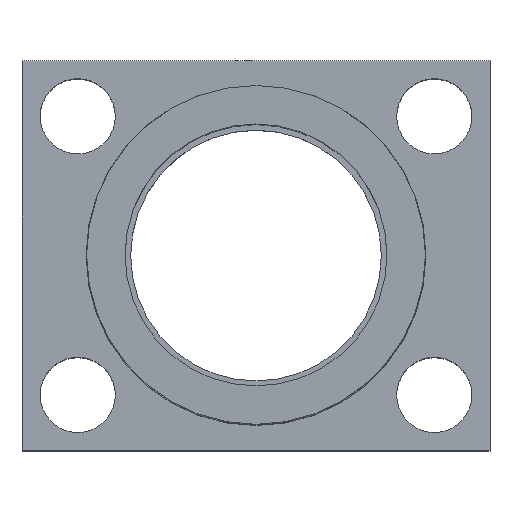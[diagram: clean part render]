
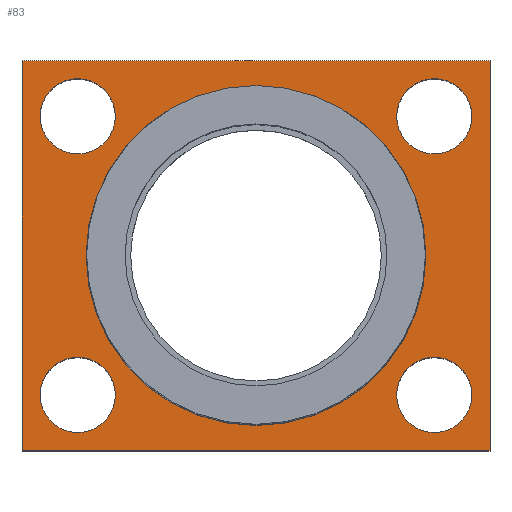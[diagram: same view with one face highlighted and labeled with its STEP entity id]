
A CAD part, top view. The second image highlights one B-rep face of the part: STEP entity #83.
In plain terms, the highlighted planar face has unit normal (0, 0, 1).
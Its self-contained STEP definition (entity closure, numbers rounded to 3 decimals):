
#4 = CIRCLE ( 'NONE', #1958, 6.75 ) ;
#51 = LINE ( 'NONE', #91, #1000 ) ;
#56 = EDGE_CURVE ( 'NONE', #1602, #290, #51, .T. ) ;
#67 = LINE ( 'NONE', #1934, #105 ) ;
#70 = EDGE_CURVE ( 'NONE', #1857, #994, #1329, .T. ) ;
#83 = ADVANCED_FACE ( 'NONE', ( #1159, #217, #1782, #1490, #812, #1295 ), #1332, .T. ) ;
#91 = CARTESIAN_POINT ( 'NONE',  ( 42., 35., 6. ) ) ;
#105 = VECTOR ( 'NONE', #1789, 1000. ) ;
#106 = CARTESIAN_POINT ( 'NONE',  ( -32., -25., 6. ) ) ;
#116 = VERTEX_POINT ( 'NONE', #1685 ) ;
#121 = EDGE_CURVE ( 'NONE', #994, #1857, #1787, .T. ) ;
#135 = DIRECTION ( 'NONE',  ( 1., 0., 0. ) ) ;
#137 = DIRECTION ( 'NONE',  ( 1., 0., 0. ) ) ;
#140 = EDGE_LOOP ( 'NONE', ( #935, #439, #693, #165 ) ) ;
#144 = VECTOR ( 'NONE', #1543, 1000. ) ;
#145 = ORIENTED_EDGE ( 'NONE', *, *, #121, .F. ) ;
#151 = CARTESIAN_POINT ( 'NONE',  ( 0., 0., 6. ) ) ;
#159 = CARTESIAN_POINT ( 'NONE',  ( -30.5, 0., 6. ) ) ;
#165 = ORIENTED_EDGE ( 'NONE', *, *, #1401, .T. ) ;
#200 = CARTESIAN_POINT ( 'NONE',  ( 30.5, 0., 6. ) ) ;
#205 = VERTEX_POINT ( 'NONE', #1817 ) ;
#211 = EDGE_CURVE ( 'NONE', #278, #389, #1046, .T. ) ;
#217 = FACE_BOUND ( 'NONE', #1929, .T. ) ;
#227 = ORIENTED_EDGE ( 'NONE', *, *, #485, .F. ) ;
#243 = CIRCLE ( 'NONE', #528, 6.75 ) ;
#255 = DIRECTION ( 'NONE',  ( 0., 0., 1. ) ) ;
#270 = CIRCLE ( 'NONE', #984, 6.75 ) ;
#278 = VERTEX_POINT ( 'NONE', #1709 ) ;
#290 = VERTEX_POINT ( 'NONE', #1435 ) ;
#291 = LINE ( 'NONE', #904, #144 ) ;
#293 = ORIENTED_EDGE ( 'NONE', *, *, #1013, .F. ) ;
#311 = VERTEX_POINT ( 'NONE', #340 ) ;
#340 = CARTESIAN_POINT ( 'NONE',  ( -42., -35., 6. ) ) ;
#352 = DIRECTION ( 'NONE',  ( 0., 0., 1. ) ) ;
#383 = EDGE_CURVE ( 'NONE', #1366, #116, #4, .T. ) ;
#387 = DIRECTION ( 'NONE',  ( -1., 0., 0. ) ) ;
#389 = VERTEX_POINT ( 'NONE', #609 ) ;
#420 = CARTESIAN_POINT ( 'NONE',  ( 0., 0., 6. ) ) ;
#439 = ORIENTED_EDGE ( 'NONE', *, *, #1102, .T. ) ;
#444 = DIRECTION ( 'NONE',  ( 1., 0., 0. ) ) ;
#485 = EDGE_CURVE ( 'NONE', #116, #1366, #783, .T. ) ;
#506 = VERTEX_POINT ( 'NONE', #200 ) ;
#526 = CIRCLE ( 'NONE', #1182, 30.5 ) ;
#528 = AXIS2_PLACEMENT_3D ( 'NONE', #1448, #352, #970 ) ;
#546 = DIRECTION ( 'NONE',  ( 1., 0., 0. ) ) ;
#555 = AXIS2_PLACEMENT_3D ( 'NONE', #1030, #255, #706 ) ;
#586 = DIRECTION ( 'NONE',  ( 0., 0., 1. ) ) ;
#591 = DIRECTION ( 'NONE',  ( 1., 0., 0. ) ) ;
#609 = CARTESIAN_POINT ( 'NONE',  ( 25.25, -25., 6. ) ) ;
#680 = AXIS2_PLACEMENT_3D ( 'NONE', #1539, #1023, #137 ) ;
#693 = ORIENTED_EDGE ( 'NONE', *, *, #1812, .T. ) ;
#706 = DIRECTION ( 'NONE',  ( 1., 0., 0. ) ) ;
#727 = CARTESIAN_POINT ( 'NONE',  ( -25.25, -25., 6. ) ) ;
#755 = VERTEX_POINT ( 'NONE', #1914 ) ;
#777 = VERTEX_POINT ( 'NONE', #1597 ) ;
#783 = CIRCLE ( 'NONE', #1412, 6.75 ) ;
#801 = DIRECTION ( 'NONE',  ( 0., 0., 1. ) ) ;
#812 = FACE_BOUND ( 'NONE', #1731, .T. ) ;
#850 = DIRECTION ( 'NONE',  ( 1., 0., 0. ) ) ;
#855 = ORIENTED_EDGE ( 'NONE', *, *, #383, .F. ) ;
#860 = DIRECTION ( 'NONE',  ( 1., 0., 0. ) ) ;
#867 = DIRECTION ( 'NONE',  ( 0., 0., 1. ) ) ;
#896 = AXIS2_PLACEMENT_3D ( 'NONE', #106, #586, #860 ) ;
#904 = CARTESIAN_POINT ( 'NONE',  ( -42., 35., 6. ) ) ;
#928 = EDGE_LOOP ( 'NONE', ( #1545, #1459 ) ) ;
#935 = ORIENTED_EDGE ( 'NONE', *, *, #56, .T. ) ;
#937 = ORIENTED_EDGE ( 'NONE', *, *, #70, .F. ) ;
#944 = CARTESIAN_POINT ( 'NONE',  ( 32., 25., 6. ) ) ;
#967 = DIRECTION ( 'NONE',  ( 0., 0., 1. ) ) ;
#970 = DIRECTION ( 'NONE',  ( 1., 0., 0. ) ) ;
#978 = EDGE_LOOP ( 'NONE', ( #227, #855 ) ) ;
#984 = AXIS2_PLACEMENT_3D ( 'NONE', #1816, #867, #135 ) ;
#989 = EDGE_CURVE ( 'NONE', #506, #1622, #526, .T. ) ;
#994 = VERTEX_POINT ( 'NONE', #1200 ) ;
#1000 = VECTOR ( 'NONE', #387, 1000. ) ;
#1013 = EDGE_CURVE ( 'NONE', #1622, #506, #1086, .T. ) ;
#1023 = DIRECTION ( 'NONE',  ( 0., 0., 1. ) ) ;
#1030 = CARTESIAN_POINT ( 'NONE',  ( -32., 25., 6. ) ) ;
#1045 = DIRECTION ( 'NONE',  ( 0., 0., 1. ) ) ;
#1046 = CIRCLE ( 'NONE', #680, 6.75 ) ;
#1086 = CIRCLE ( 'NONE', #1349, 30.5 ) ;
#1102 = EDGE_CURVE ( 'NONE', #290, #311, #291, .T. ) ;
#1159 = FACE_BOUND ( 'NONE', #978, .T. ) ;
#1165 = EDGE_CURVE ( 'NONE', #777, #755, #243, .T. ) ;
#1182 = AXIS2_PLACEMENT_3D ( 'NONE', #420, #1045, #591 ) ;
#1200 = CARTESIAN_POINT ( 'NONE',  ( -38.75, -25., 6. ) ) ;
#1272 = AXIS2_PLACEMENT_3D ( 'NONE', #1600, #1953, #546 ) ;
#1295 = FACE_OUTER_BOUND ( 'NONE', #140, .T. ) ;
#1310 = DIRECTION ( 'NONE',  ( 0., 0., 1. ) ) ;
#1329 = CIRCLE ( 'NONE', #1462, 6.75 ) ;
#1332 = PLANE ( 'NONE',  #1272 ) ;
#1349 = AXIS2_PLACEMENT_3D ( 'NONE', #151, #1855, #1395 ) ;
#1366 = VERTEX_POINT ( 'NONE', #1818 ) ;
#1395 = DIRECTION ( 'NONE',  ( 1., 0., 0. ) ) ;
#1401 = EDGE_CURVE ( 'NONE', #205, #1602, #1666, .T. ) ;
#1412 = AXIS2_PLACEMENT_3D ( 'NONE', #1443, #967, #850 ) ;
#1435 = CARTESIAN_POINT ( 'NONE',  ( -42., 35., 6. ) ) ;
#1443 = CARTESIAN_POINT ( 'NONE',  ( 32., 25., 6. ) ) ;
#1448 = CARTESIAN_POINT ( 'NONE',  ( -32., 25., 6. ) ) ;
#1459 = ORIENTED_EDGE ( 'NONE', *, *, #211, .F. ) ;
#1462 = AXIS2_PLACEMENT_3D ( 'NONE', #1944, #1310, #1936 ) ;
#1490 = FACE_BOUND ( 'NONE', #928, .T. ) ;
#1513 = CIRCLE ( 'NONE', #555, 6.75 ) ;
#1524 = ORIENTED_EDGE ( 'NONE', *, *, #1837, .F. ) ;
#1539 = CARTESIAN_POINT ( 'NONE',  ( 32., -25., 6. ) ) ;
#1543 = DIRECTION ( 'NONE',  ( 0., -1., 0. ) ) ;
#1545 = ORIENTED_EDGE ( 'NONE', *, *, #1928, .F. ) ;
#1597 = CARTESIAN_POINT ( 'NONE',  ( -25.25, 25., 6. ) ) ;
#1600 = CARTESIAN_POINT ( 'NONE',  ( 0., 0., 6. ) ) ;
#1602 = VERTEX_POINT ( 'NONE', #1885 ) ;
#1615 = EDGE_LOOP ( 'NONE', ( #145, #937 ) ) ;
#1622 = VERTEX_POINT ( 'NONE', #159 ) ;
#1666 = LINE ( 'NONE', #1828, #1773 ) ;
#1685 = CARTESIAN_POINT ( 'NONE',  ( 25.25, 25., 6. ) ) ;
#1709 = CARTESIAN_POINT ( 'NONE',  ( 38.75, -25., 6. ) ) ;
#1713 = ORIENTED_EDGE ( 'NONE', *, *, #1165, .F. ) ;
#1731 = EDGE_LOOP ( 'NONE', ( #1790, #293 ) ) ;
#1773 = VECTOR ( 'NONE', #1995, 1000. ) ;
#1782 = FACE_BOUND ( 'NONE', #1615, .T. ) ;
#1787 = CIRCLE ( 'NONE', #896, 6.75 ) ;
#1789 = DIRECTION ( 'NONE',  ( 1., 0., 0. ) ) ;
#1790 = ORIENTED_EDGE ( 'NONE', *, *, #989, .F. ) ;
#1812 = EDGE_CURVE ( 'NONE', #311, #205, #67, .T. ) ;
#1816 = CARTESIAN_POINT ( 'NONE',  ( 32., -25., 6. ) ) ;
#1817 = CARTESIAN_POINT ( 'NONE',  ( 42., -35., 6. ) ) ;
#1818 = CARTESIAN_POINT ( 'NONE',  ( 38.75, 25., 6. ) ) ;
#1828 = CARTESIAN_POINT ( 'NONE',  ( 42., -35., 6. ) ) ;
#1837 = EDGE_CURVE ( 'NONE', #755, #777, #1513, .T. ) ;
#1855 = DIRECTION ( 'NONE',  ( 0., 0., 1. ) ) ;
#1857 = VERTEX_POINT ( 'NONE', #727 ) ;
#1885 = CARTESIAN_POINT ( 'NONE',  ( 42., 35., 6. ) ) ;
#1914 = CARTESIAN_POINT ( 'NONE',  ( -38.75, 25., 6. ) ) ;
#1928 = EDGE_CURVE ( 'NONE', #389, #278, #270, .T. ) ;
#1929 = EDGE_LOOP ( 'NONE', ( #1524, #1713 ) ) ;
#1934 = CARTESIAN_POINT ( 'NONE',  ( -42., -35., 6. ) ) ;
#1936 = DIRECTION ( 'NONE',  ( 1., 0., 0. ) ) ;
#1944 = CARTESIAN_POINT ( 'NONE',  ( -32., -25., 6. ) ) ;
#1953 = DIRECTION ( 'NONE',  ( 0., 0., 1. ) ) ;
#1958 = AXIS2_PLACEMENT_3D ( 'NONE', #944, #801, #444 ) ;
#1995 = DIRECTION ( 'NONE',  ( 0., 1., 0. ) ) ;
